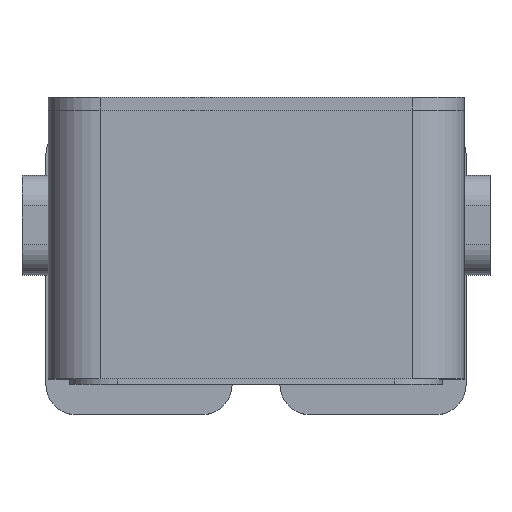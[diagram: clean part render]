
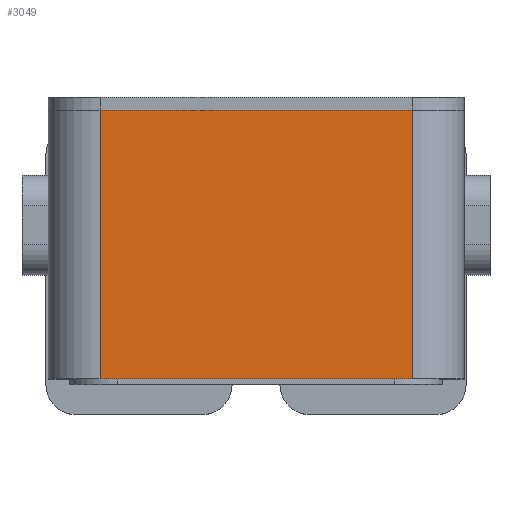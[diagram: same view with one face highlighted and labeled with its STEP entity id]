
A CAD part, top view. The second image highlights one B-rep face of the part: STEP entity #3049.
In plain terms, the highlighted planar face has unit normal (0, 0, 1).
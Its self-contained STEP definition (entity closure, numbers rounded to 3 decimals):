
#158 = PLANE('',#159);
#159 = AXIS2_PLACEMENT_3D('',#160,#161,#162);
#160 = CARTESIAN_POINT('',(-48.,-31.,84.));
#161 = DIRECTION('',(-0.,1.,0.));
#162 = DIRECTION('',(0.,0.,1.));
#214 = PLANE('',#215);
#215 = AXIS2_PLACEMENT_3D('',#216,#217,#218);
#216 = CARTESIAN_POINT('',(-48.,31.,84.));
#217 = DIRECTION('',(-0.,1.,0.));
#218 = DIRECTION('',(0.,0.,1.));
#240 = CYLINDRICAL_SURFACE('',#241,12.);
#241 = AXIS2_PLACEMENT_3D('',#242,#243,#244);
#242 = CARTESIAN_POINT('',(-36.,-31.,143.));
#243 = DIRECTION('',(-0.,1.,0.));
#244 = DIRECTION('',(-1.,-0.,0.));
#313 = VERTEX_POINT('',#314);
#314 = CARTESIAN_POINT('',(-36.,-31.,155.));
#336 = EDGE_CURVE('',#313,#337,#339,.T.);
#337 = VERTEX_POINT('',#338);
#338 = CARTESIAN_POINT('',(36.,-31.,155.));
#339 = SURFACE_CURVE('',#340,(#344,#351),.PCURVE_S1.);
#340 = LINE('',#341,#342);
#341 = CARTESIAN_POINT('',(-48.,-31.,155.));
#342 = VECTOR('',#343,1.);
#343 = DIRECTION('',(1.,0.,-0.));
#344 = PCURVE('',#158,#345);
#345 = DEFINITIONAL_REPRESENTATION('',(#346),#350);
#346 = LINE('',#347,#348);
#347 = CARTESIAN_POINT('',(71.,0.));
#348 = VECTOR('',#349,1.);
#349 = DIRECTION('',(0.,1.));
#350 = ( GEOMETRIC_REPRESENTATION_CONTEXT(2) 
PARAMETRIC_REPRESENTATION_CONTEXT() REPRESENTATION_CONTEXT('2D SPACE',''
  ) );
#351 = PCURVE('',#352,#357);
#352 = PLANE('',#353);
#353 = AXIS2_PLACEMENT_3D('',#354,#355,#356);
#354 = CARTESIAN_POINT('',(-48.,-31.,155.));
#355 = DIRECTION('',(0.,0.,1.));
#356 = DIRECTION('',(1.,0.,-0.));
#357 = DEFINITIONAL_REPRESENTATION('',(#358),#362);
#358 = LINE('',#359,#360);
#359 = CARTESIAN_POINT('',(0.,0.));
#360 = VECTOR('',#361,1.);
#361 = DIRECTION('',(1.,0.));
#362 = ( GEOMETRIC_REPRESENTATION_CONTEXT(2) 
PARAMETRIC_REPRESENTATION_CONTEXT() REPRESENTATION_CONTEXT('2D SPACE',''
  ) );
#385 = CYLINDRICAL_SURFACE('',#386,12.);
#386 = AXIS2_PLACEMENT_3D('',#387,#388,#389);
#387 = CARTESIAN_POINT('',(36.,-31.,143.));
#388 = DIRECTION('',(-0.,1.,0.));
#389 = DIRECTION('',(1.,0.,-0.));
#1537 = EDGE_CURVE('',#313,#1538,#1540,.T.);
#1538 = VERTEX_POINT('',#1539);
#1539 = CARTESIAN_POINT('',(-36.,31.,155.));
#1540 = SURFACE_CURVE('',#1541,(#1545,#1552),.PCURVE_S1.);
#1541 = LINE('',#1542,#1543);
#1542 = CARTESIAN_POINT('',(-36.,-31.,155.));
#1543 = VECTOR('',#1544,1.);
#1544 = DIRECTION('',(-0.,1.,0.));
#1545 = PCURVE('',#240,#1546);
#1546 = DEFINITIONAL_REPRESENTATION('',(#1547),#1551);
#1547 = LINE('',#1548,#1549);
#1548 = CARTESIAN_POINT('',(1.571,0.));
#1549 = VECTOR('',#1550,1.);
#1550 = DIRECTION('',(0.,1.));
#1551 = ( GEOMETRIC_REPRESENTATION_CONTEXT(2) 
PARAMETRIC_REPRESENTATION_CONTEXT() REPRESENTATION_CONTEXT('2D SPACE',''
  ) );
#1552 = PCURVE('',#352,#1553);
#1553 = DEFINITIONAL_REPRESENTATION('',(#1554),#1558);
#1554 = LINE('',#1555,#1556);
#1555 = CARTESIAN_POINT('',(12.,0.));
#1556 = VECTOR('',#1557,1.);
#1557 = DIRECTION('',(0.,1.));
#1558 = ( GEOMETRIC_REPRESENTATION_CONTEXT(2) 
PARAMETRIC_REPRESENTATION_CONTEXT() REPRESENTATION_CONTEXT('2D SPACE',''
  ) );
#1613 = EDGE_CURVE('',#1538,#1614,#1616,.T.);
#1614 = VERTEX_POINT('',#1615);
#1615 = CARTESIAN_POINT('',(36.,31.,155.));
#1616 = SURFACE_CURVE('',#1617,(#1621,#1628),.PCURVE_S1.);
#1617 = LINE('',#1618,#1619);
#1618 = CARTESIAN_POINT('',(-48.,31.,155.));
#1619 = VECTOR('',#1620,1.);
#1620 = DIRECTION('',(1.,0.,-0.));
#1621 = PCURVE('',#214,#1622);
#1622 = DEFINITIONAL_REPRESENTATION('',(#1623),#1627);
#1623 = LINE('',#1624,#1625);
#1624 = CARTESIAN_POINT('',(71.,0.));
#1625 = VECTOR('',#1626,1.);
#1626 = DIRECTION('',(0.,1.));
#1627 = ( GEOMETRIC_REPRESENTATION_CONTEXT(2) 
PARAMETRIC_REPRESENTATION_CONTEXT() REPRESENTATION_CONTEXT('2D SPACE',''
  ) );
#1628 = PCURVE('',#352,#1629);
#1629 = DEFINITIONAL_REPRESENTATION('',(#1630),#1634);
#1630 = LINE('',#1631,#1632);
#1631 = CARTESIAN_POINT('',(0.,62.));
#1632 = VECTOR('',#1633,1.);
#1633 = DIRECTION('',(1.,0.));
#1634 = ( GEOMETRIC_REPRESENTATION_CONTEXT(2) 
PARAMETRIC_REPRESENTATION_CONTEXT() REPRESENTATION_CONTEXT('2D SPACE',''
  ) );
#3027 = EDGE_CURVE('',#337,#1614,#3028,.T.);
#3028 = SURFACE_CURVE('',#3029,(#3033,#3040),.PCURVE_S1.);
#3029 = LINE('',#3030,#3031);
#3030 = CARTESIAN_POINT('',(36.,-31.,155.));
#3031 = VECTOR('',#3032,1.);
#3032 = DIRECTION('',(-0.,1.,0.));
#3033 = PCURVE('',#385,#3034);
#3034 = DEFINITIONAL_REPRESENTATION('',(#3035),#3039);
#3035 = LINE('',#3036,#3037);
#3036 = CARTESIAN_POINT('',(-1.571,0.));
#3037 = VECTOR('',#3038,1.);
#3038 = DIRECTION('',(-0.,1.));
#3039 = ( GEOMETRIC_REPRESENTATION_CONTEXT(2) 
PARAMETRIC_REPRESENTATION_CONTEXT() REPRESENTATION_CONTEXT('2D SPACE',''
  ) );
#3040 = PCURVE('',#352,#3041);
#3041 = DEFINITIONAL_REPRESENTATION('',(#3042),#3046);
#3042 = LINE('',#3043,#3044);
#3043 = CARTESIAN_POINT('',(84.,0.));
#3044 = VECTOR('',#3045,1.);
#3045 = DIRECTION('',(0.,1.));
#3046 = ( GEOMETRIC_REPRESENTATION_CONTEXT(2) 
PARAMETRIC_REPRESENTATION_CONTEXT() REPRESENTATION_CONTEXT('2D SPACE',''
  ) );
#3049 = ADVANCED_FACE('',(#3050),#352,.T.);
#3050 = FACE_BOUND('',#3051,.T.);
#3051 = EDGE_LOOP('',(#3052,#3053,#3054,#3055));
#3052 = ORIENTED_EDGE('',*,*,#1613,.F.);
#3053 = ORIENTED_EDGE('',*,*,#1537,.F.);
#3054 = ORIENTED_EDGE('',*,*,#336,.T.);
#3055 = ORIENTED_EDGE('',*,*,#3027,.T.);
